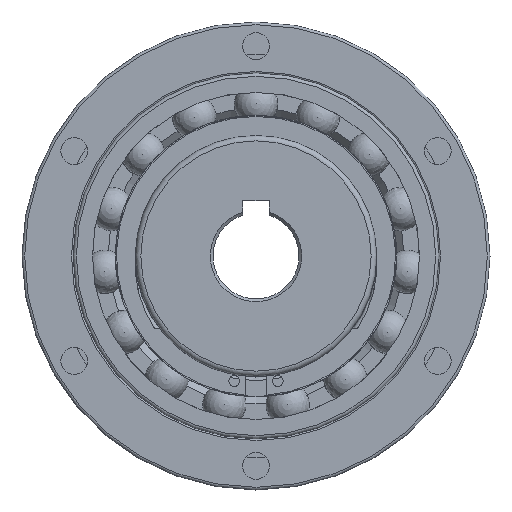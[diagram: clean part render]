
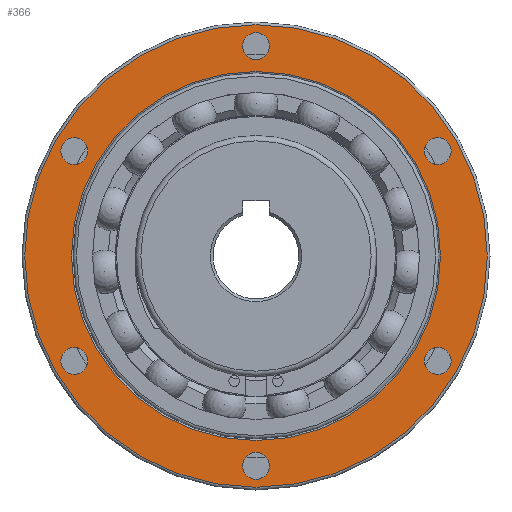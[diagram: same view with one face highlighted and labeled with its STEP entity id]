
A CAD part, left-side view. The second image highlights one B-rep face of the part: STEP entity #366.
In plain terms, the highlighted planar face has unit normal (-1, 0, 0).
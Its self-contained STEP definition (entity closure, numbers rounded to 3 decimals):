
#366 = ADVANCED_FACE( '', ( #852, #853, #854, #855, #856, #857, #858, #859 ), #860, .F. );
#852 = FACE_OUTER_BOUND( '', #1446, .T. );
#853 = FACE_BOUND( '', #1447, .T. );
#854 = FACE_BOUND( '', #1448, .T. );
#855 = FACE_BOUND( '', #1449, .T. );
#856 = FACE_BOUND( '', #1450, .T. );
#857 = FACE_BOUND( '', #1451, .T. );
#858 = FACE_BOUND( '', #1452, .T. );
#859 = FACE_BOUND( '', #1453, .T. );
#860 = PLANE( '', #1454 );
#1446 = EDGE_LOOP( '', ( #2521 ) );
#1447 = EDGE_LOOP( '', ( #2522 ) );
#1448 = EDGE_LOOP( '', ( #2523 ) );
#1449 = EDGE_LOOP( '', ( #2524 ) );
#1450 = EDGE_LOOP( '', ( #2525 ) );
#1451 = EDGE_LOOP( '', ( #2526 ) );
#1452 = EDGE_LOOP( '', ( #2527 ) );
#1453 = EDGE_LOOP( '', ( #2528 ) );
#1454 = AXIS2_PLACEMENT_3D( '', #2529, #2530, #2531 );
#2521 = ORIENTED_EDGE( '', *, *, #3435, .T. );
#2522 = ORIENTED_EDGE( '', *, *, #3576, .F. );
#2523 = ORIENTED_EDGE( '', *, *, #3384, .F. );
#2524 = ORIENTED_EDGE( '', *, *, #3577, .F. );
#2525 = ORIENTED_EDGE( '', *, *, #3566, .F. );
#2526 = ORIENTED_EDGE( '', *, *, #3381, .F. );
#2527 = ORIENTED_EDGE( '', *, *, #3396, .F. );
#2528 = ORIENTED_EDGE( '', *, *, #3578, .F. );
#2529 = CARTESIAN_POINT( '', ( 9.45, 0., 43. ) );
#2530 = DIRECTION( '', ( 1., 0., 0. ) );
#2531 = DIRECTION( '', ( 0., 1., 0. ) );
#3381 = EDGE_CURVE( '', #4103, #4103, #4104, .T. );
#3384 = EDGE_CURVE( '', #4108, #4108, #4109, .T. );
#3396 = EDGE_CURVE( '', #4128, #4128, #4129, .T. );
#3435 = EDGE_CURVE( '', #4188, #4188, #4189, .T. );
#3566 = EDGE_CURVE( '', #4380, #4380, #4381, .T. );
#3576 = EDGE_CURVE( '', #4393, #4393, #4394, .T. );
#3577 = EDGE_CURVE( '', #4395, #4395, #4396, .T. );
#3578 = EDGE_CURVE( '', #4397, #4397, #4398, .T. );
#4103 = VERTEX_POINT( '', #5854 );
#4104 = CIRCLE( '', #5855, 2.5 );
#4108 = VERTEX_POINT( '', #5859 );
#4109 = CIRCLE( '', #5860, 2.5 );
#4128 = VERTEX_POINT( '', #5885 );
#4129 = CIRCLE( '', #5886, 2.5 );
#4188 = VERTEX_POINT( '', #6124 );
#4189 = CIRCLE( '', #6125, 43. );
#4380 = VERTEX_POINT( '', #6686 );
#4381 = CIRCLE( '', #6687, 2.5 );
#4393 = VERTEX_POINT( '', #6774 );
#4394 = CIRCLE( '', #6775, 2.5 );
#4395 = VERTEX_POINT( '', #6776 );
#4396 = CIRCLE( '', #6777, 2.5 );
#4397 = VERTEX_POINT( '', #6778 );
#4398 = CIRCLE( '', #6779, 34.3 );
#5854 = CARTESIAN_POINT( '', ( 9.45, -33.775, -22. ) );
#5855 = AXIS2_PLACEMENT_3D( '', #7559, #7560, #7561 );
#5859 = CARTESIAN_POINT( '', ( 9.45, 33.775, 17. ) );
#5860 = AXIS2_PLACEMENT_3D( '', #7565, #7566, #7567 );
#5885 = CARTESIAN_POINT( '', ( 9.45, -33.775, 17. ) );
#5886 = AXIS2_PLACEMENT_3D( '', #7580, #7581, #7582 );
#6124 = CARTESIAN_POINT( '', ( 9.45, 0., 43. ) );
#6125 = AXIS2_PLACEMENT_3D( '', #7622, #7623, #7624 );
#6686 = CARTESIAN_POINT( '', ( 9.45, 0., -41.5 ) );
#6687 = AXIS2_PLACEMENT_3D( '', #7783, #7784, #7785 );
#6774 = CARTESIAN_POINT( '', ( 9.45, 0., 36.5 ) );
#6775 = AXIS2_PLACEMENT_3D( '', #7786, #7787, #7788 );
#6776 = CARTESIAN_POINT( '', ( 9.45, 33.775, -22. ) );
#6777 = AXIS2_PLACEMENT_3D( '', #7789, #7790, #7791 );
#6778 = CARTESIAN_POINT( '', ( 9.45, 0., 34.3 ) );
#6779 = AXIS2_PLACEMENT_3D( '', #7792, #7793, #7794 );
#7559 = CARTESIAN_POINT( '', ( 9.45, -33.775, -19.5 ) );
#7560 = DIRECTION( '', ( -1., 0., 0. ) );
#7561 = DIRECTION( '', ( 0., 0., -1. ) );
#7565 = CARTESIAN_POINT( '', ( 9.45, 33.775, 19.5 ) );
#7566 = DIRECTION( '', ( -1., 0., 0. ) );
#7567 = DIRECTION( '', ( 0., 0., -1. ) );
#7580 = CARTESIAN_POINT( '', ( 9.45, -33.775, 19.5 ) );
#7581 = DIRECTION( '', ( -1., 0., 0. ) );
#7582 = DIRECTION( '', ( 0., 0., -1. ) );
#7622 = CARTESIAN_POINT( '', ( 9.45, 0., 0. ) );
#7623 = DIRECTION( '', ( -1., 0., 0. ) );
#7624 = DIRECTION( '', ( 0., 0., 1. ) );
#7783 = CARTESIAN_POINT( '', ( 9.45, 0., -39. ) );
#7784 = DIRECTION( '', ( -1., 0., 0. ) );
#7785 = DIRECTION( '', ( 0., 0., -1. ) );
#7786 = CARTESIAN_POINT( '', ( 9.45, 0., 39. ) );
#7787 = DIRECTION( '', ( -1., 0., 0. ) );
#7788 = DIRECTION( '', ( 0., 0., -1. ) );
#7789 = CARTESIAN_POINT( '', ( 9.45, 33.775, -19.5 ) );
#7790 = DIRECTION( '', ( -1., 0., 0. ) );
#7791 = DIRECTION( '', ( 0., 0., -1. ) );
#7792 = CARTESIAN_POINT( '', ( 9.45, 0., 0. ) );
#7793 = DIRECTION( '', ( -1., 0., 0. ) );
#7794 = DIRECTION( '', ( 0., 0., 1. ) );
